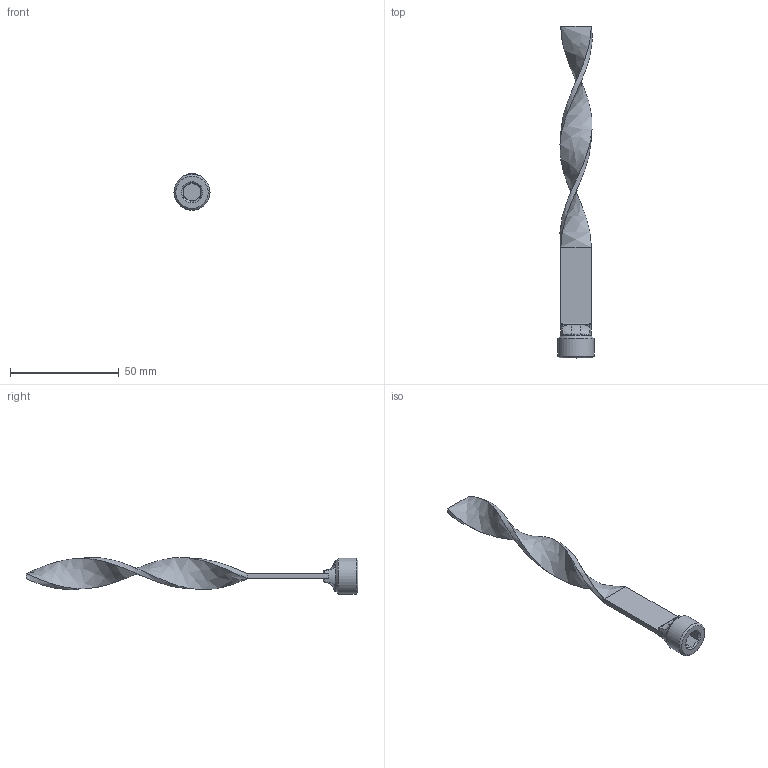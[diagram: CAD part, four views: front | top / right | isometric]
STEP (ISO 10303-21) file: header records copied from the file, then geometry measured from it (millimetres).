
FILE_DESCRIPTION(/* description */ (''),/* implementation_level */ '2;1');
FILE_NAME(/* name */ 'C:/Users/drich/Desktop/TB38X6BSP v1.step',/* time_stamp */ '2020-01-14T09:26:00-06:00',/* author */ (''),/* organization */ (''),/* preprocessor_version */ 'ST-DEVELOPER v18',/* originating_system */ 'Autodesk Translation Framework v8.12.0.6',/* authorisation */ '');
FILE_SCHEMA (('AUTOMOTIVE_DESIGN { 1 0 10303 214 3 1 1 }'));
Length unit declared in the file: inch
Products named in the file (1): TB38X6BSP
Bounding box: 16.54 x 152.4 x 16.74 mm (x, y, z)
Volume: 6789.7 mm3; surface area: 5944 mm2
Topology: 2 solids, 2 shells, 57 faces, 141 edges, 90 vertices
Faces by surface type: plane 26, bspline 12, cylinder 8, torus 8, cone 3
Full cylindrical faces by diameter (mm): 7.874 x1, 16.537 x1
Entity records: 2531 total; most frequent: CARTESIAN_POINT 1248, ORIENTED_EDGE 282, DIRECTION 219, EDGE_CURVE 141, VERTEX_POINT 90, AXIS2_PLACEMENT_3D 84, EDGE_LOOP 59, FACE_OUTER_BOUND 57
